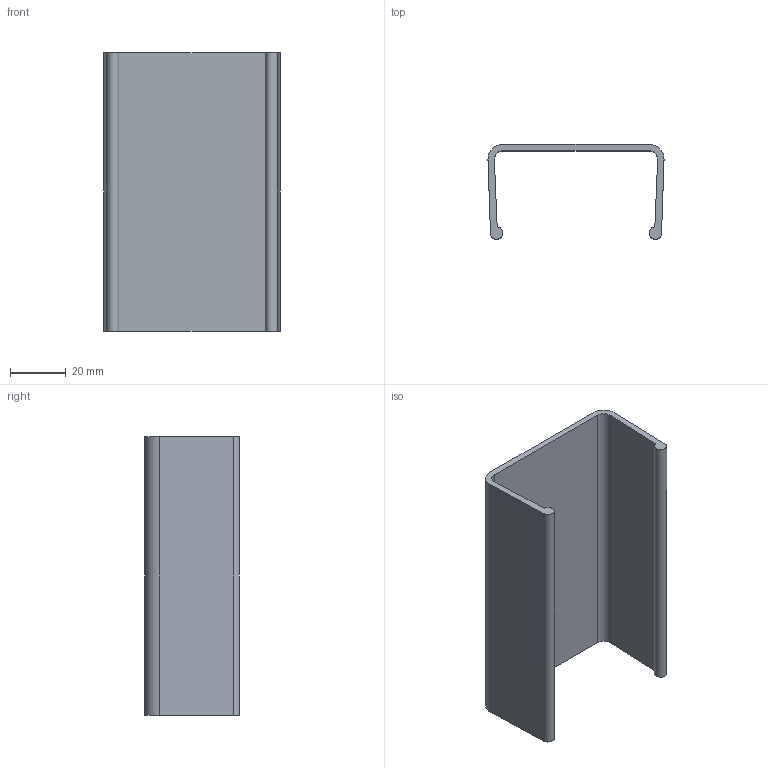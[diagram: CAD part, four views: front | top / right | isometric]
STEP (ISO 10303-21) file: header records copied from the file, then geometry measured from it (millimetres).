
FILE_DESCRIPTION(('Creo Elements/Direct Modeling STEP Export'),'2;1');
FILE_NAME('PZM.4.stp','2016-12-15T11:06:36',(''),(''),'PTC Creo Elements/Direct Modeling STEP processor for AP214 (Solid Model)','PTC Creo Elements/Direct Modeling 19.0E 27-Jun-2016 (C) Parametric Technology GmbH','');
FILE_SCHEMA(('AUTOMOTIVE_DESIGN { 1 0 10303 214 1 1 1 1 }'));
Length unit declared in the file: millimetre
Products named in the file (1): PZM.4
Bounding box: 63.19 x 34 x 100 mm (x, y, z)
Volume: 29969 mm3; surface area: 25929.3 mm2
Topology: 1 solids, 1 shells, 14 faces, 36 edges, 24 vertices
Faces by surface type: plane 8, cylinder 6
Entity records: 454 total; most frequent: DIRECTION 78, CARTESIAN_POINT 75, ORIENTED_EDGE 72, EDGE_CURVE 36, AXIS2_PLACEMENT_3D 27, VECTOR 24, LINE 24, VERTEX_POINT 24
